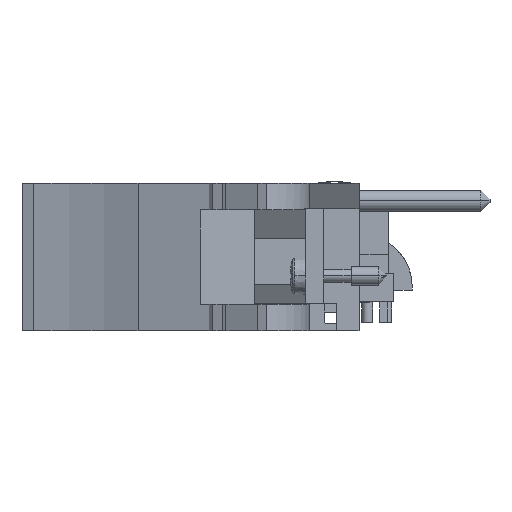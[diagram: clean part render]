
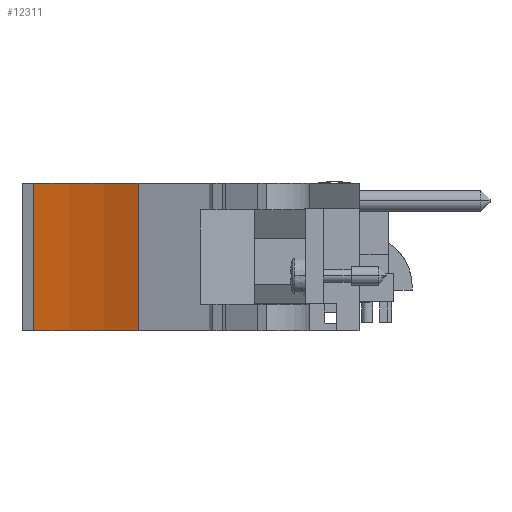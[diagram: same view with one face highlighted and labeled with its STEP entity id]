
A CAD part, front view. The second image highlights one B-rep face of the part: STEP entity #12311.
In plain terms, the highlighted cylindrical face has radius 51.46 mm (diameter 102.919 mm), a partial arc.
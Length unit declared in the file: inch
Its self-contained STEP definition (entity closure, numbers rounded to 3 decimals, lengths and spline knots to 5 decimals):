
#101=CARTESIAN_POINT('',(-1.97678,-5.95044,-0.083));
#102=DIRECTION('',(0.,0.,1.));
#103=DIRECTION('',(0.435,0.9,0.));
#104=AXIS2_PLACEMENT_3D('',#101,#102,#103);
#415=CARTESIAN_POINT('',(-1.97678,-5.95044,0.705));
#416=DIRECTION('',(0.,0.,1.));
#417=DIRECTION('',(0.435,0.9,0.));
#418=AXIS2_PLACEMENT_3D('',#415,#416,#417);
#636=DIRECTION('',(0.,0.,1.));
#637=VECTOR('',#636,0.788);
#638=CARTESIAN_POINT('',(-1.09548,-4.1262,-0.083));
#639=LINE('',#638,#637);
#652=DIRECTION('',(0.,0.,1.));
#653=VECTOR('',#652,0.788);
#654=CARTESIAN_POINT('',(-1.65345,-3.95044,-0.083));
#655=LINE('',#654,#653);
#11266=CARTESIAN_POINT('',(-1.09548,-4.1262,-0.083));
#11267=CARTESIAN_POINT('',(-1.65345,-3.95044,-0.083));
#11268=VERTEX_POINT('',#11266);
#11269=VERTEX_POINT('',#11267);
#11270=CARTESIAN_POINT('',(-1.09548,-4.1262,0.705));
#11271=CARTESIAN_POINT('',(-1.65345,-3.95044,0.705));
#11272=VERTEX_POINT('',#11270);
#11273=VERTEX_POINT('',#11271);
#12299=CARTESIAN_POINT('',(-1.97678,-5.95044,0.705));
#12300=DIRECTION('',(0.,0.,1.));
#12301=DIRECTION('',(0.,1.,0.));
#12302=AXIS2_PLACEMENT_3D('',#12299,#12300,#12301);
#12303=CYLINDRICAL_SURFACE('',#12302,2.02597);
#12304=ORIENTED_EDGE('',*,*,#11674,.T.);
#12306=ORIENTED_EDGE('',*,*,#12305,.T.);
#12307=ORIENTED_EDGE('',*,*,#11975,.F.);
#12308=ORIENTED_EDGE('',*,*,#12284,.F.);
#12309=EDGE_LOOP('',(#12304,#12306,#12307,#12308));
#12310=FACE_OUTER_BOUND('',#12309,.F.);
#12311=ADVANCED_FACE('',(#12310),#12303,.F.);
#105=CIRCLE('',#104,2.02597);
#419=CIRCLE('',#418,2.02597);
#11674=EDGE_CURVE('',#11268,#11269,#105,.T.);
#11975=EDGE_CURVE('',#11272,#11273,#419,.T.);
#12284=EDGE_CURVE('',#11268,#11272,#639,.T.);
#12305=EDGE_CURVE('',#11269,#11273,#655,.T.);
